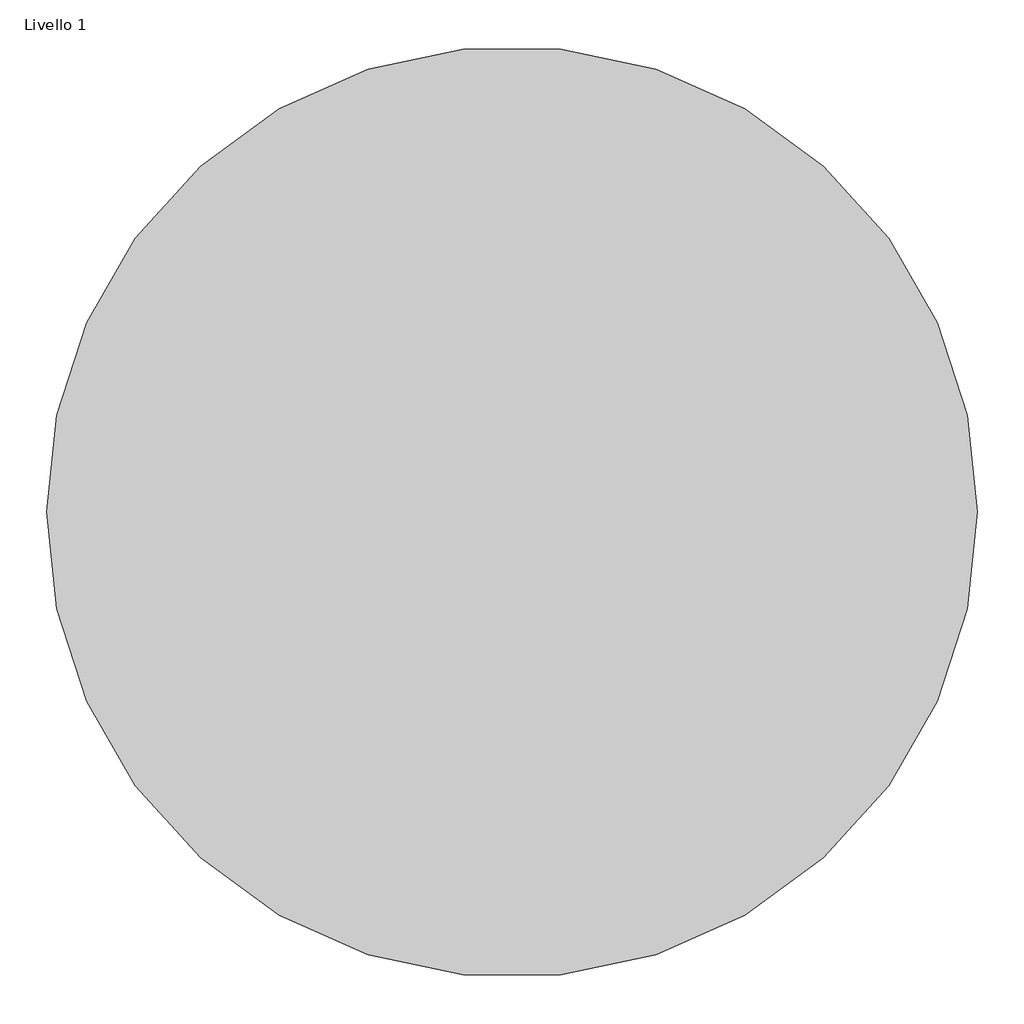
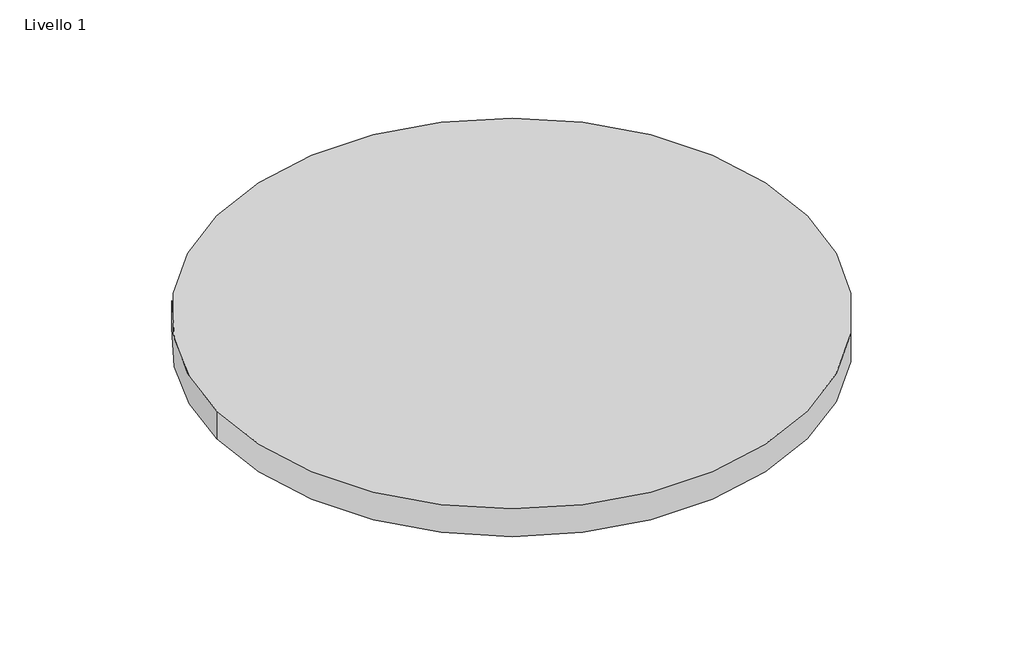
# One storey, incomplete: 1 proxy.
"""IFC4 building model written with IfcOpenShell, lengths in millimetres."""

import ifcopenshell
import ifcopenshell.guid

model = None  # the IFC model being written
_history = None  # IfcOwnerHistory: only IFC2X3 demands one
_inside = {}  # id of a spatial element -> (the spatial element, [elements in it])
_under = {}  # id of a project, library or spatial element -> (it, [spatial elements below it])
_declared = {}  # id of a project -> (the project, [libraries it declares])
_typed = {}  # id of a type object -> (the type object, [elements of that type])
_made_of = {}  # id of a material, layer set ... -> (it, [elements and type objects made of it])


def new_model(schema):
    """Start an empty IFC model of exactly this schema.

    Asked for "IFC4X3", IfcOpenShell would pick the latest addendum, in which some entities
    have other attributes; the version numbers below select the first issue.
    IFC2X3 requires an IfcOwnerHistory on every rooted entity: one is made here for all.
    """
    global model, _history
    if schema == "IFC4X3":
        model = ifcopenshell.file(schema_version=(4, 3, 0, 0))
    else:
        model = ifcopenshell.file(schema=schema)
    _inside.clear()
    _under.clear()
    _declared.clear()
    _typed.clear()
    _made_of.clear()
    _history = None
    if model.schema == "IFC2X3":
        org = make("IfcOrganization", Name="unknown")
        user = make(
            "IfcPersonAndOrganization",
            ThePerson=make("IfcPerson", FamilyName="unknown"),
            TheOrganization=org,
        )
        app = make(
            "IfcApplication",
            ApplicationDeveloper=org,
            Version="unknown",
            ApplicationFullName="unknown",
            ApplicationIdentifier="unknown",
        )
        _history = make(
            "IfcOwnerHistory",
            OwningUser=user,
            OwningApplication=app,
            ChangeAction="ADDED",
            CreationDate=0,
        )
    return model


def make(cls, **values):
    """One entity of the class cls with the attributes given. An attribute that is None is left unset."""
    return model.create_entity(
        cls, **{name: value for name, value in values.items() if value is not None}
    )


def rooted(cls, **values):
    """An entity with a GlobalId (a new one), such as an element, a storey or a relation."""
    return make(cls, GlobalId=ifcopenshell.guid.new(), OwnerHistory=_history, **values)


def si_unit(unit_type, name, prefix=None):
    """IfcSIUnit, for example si_unit("LENGTHUNIT", "METRE", prefix="MILLI")."""
    return make("IfcSIUnit", UnitType=unit_type, Prefix=prefix, Name=name)


def assignment(units):
    """IfcUnitAssignment: the units of a project."""
    return None if units is None else make("IfcUnitAssignment", Units=units)


def point(xyz):
    """IfcCartesianPoint."""
    return None if xyz is None else make("IfcCartesianPoint", Coordinates=xyz)


def direction(xyz):
    """IfcDirection."""
    return None if xyz is None else make("IfcDirection", DirectionRatios=xyz)


def frame(location, z_axis=None, x_axis=None):
    """IfcAxis2Placement3D, a coordinate frame: its origin and axes. An axis left out is left unset."""
    return make(
        "IfcAxis2Placement3D",
        Location=point(location),
        Axis=direction(z_axis),
        RefDirection=direction(x_axis),
    )


def frame_2d(location, x_axis=None):
    """IfcAxis2Placement2D, a coordinate frame in the plane: its origin and x axis."""
    return make(
        "IfcAxis2Placement2D", Location=point(location), RefDirection=direction(x_axis)
    )


def origin():
    """The frame at (0, 0, 0) with its axes left unset."""
    return frame((0.0, 0.0, 0.0))


def origin_2d():
    """The frame at (0, 0) in the plane with its x axis left unset."""
    return frame_2d((0.0, 0.0))


def place(relative_to, where):
    """IfcLocalPlacement: puts the frame where relative to a parent placement (None: the world)."""
    return make(
        "IfcLocalPlacement", PlacementRelTo=relative_to, RelativePlacement=where
    )


def context(
    kind, dimensions, precision=None, world=None, true_north=None, identifier=None
):
    """IfcGeometricRepresentationContext, for example the 3D "Model" context."""
    return make(
        "IfcGeometricRepresentationContext",
        ContextIdentifier=identifier,
        ContextType=kind,
        CoordinateSpaceDimension=dimensions,
        Precision=precision,
        WorldCoordinateSystem=world,
        TrueNorth=true_north,
    )


def project(units=None, contexts=None):
    """IfcProject with its units and contexts."""
    return rooted(
        "IfcProject",
        Name="project",
        RepresentationContexts=contexts,
        UnitsInContext=assignment(units),
    )


def spatial(cls, under=None, at=None, **own):
    """A site, building, storey or space (cls), placed at a placement, below another one or the project."""
    s = rooted(cls, ObjectPlacement=at, **own)
    if under is not None:
        _under.setdefault(under.id(), (under, []))[1].append(s)
    return s


def circle_curve(where, radius):
    """IfcCircle in the frame where."""
    return make("IfcCircle", Position=where, Radius=radius)


def trimmed(basis, trim1, trim2, sense, master):
    """IfcTrimmedCurve: the piece of a basis curve between two trims."""
    return make(
        "IfcTrimmedCurve",
        BasisCurve=basis,
        Trim1=trim1,
        Trim2=trim2,
        SenseAgreement=sense,
        MasterRepresentation=master,
    )


def segment(curve, same_sense, transition):
    """IfcCompositeCurveSegment."""
    return make(
        "IfcCompositeCurveSegment",
        Transition=transition,
        SameSense=same_sense,
        ParentCurve=curve,
    )


def composite_curve(segments, self_intersect=None):
    """IfcCompositeCurve: segments joined end to end."""
    return make("IfcCompositeCurve", Segments=segments, SelfIntersect=self_intersect)


def outline(outer, holes=None, kind="AREA"):
    """IfcArbitraryClosedProfileDef: a profile drawn as a closed curve; with holes, ...WithVoids."""
    if holes is None:
        return make("IfcArbitraryClosedProfileDef", ProfileType=kind, OuterCurve=outer)
    return make(
        "IfcArbitraryProfileDefWithVoids",
        ProfileType=kind,
        OuterCurve=outer,
        InnerCurves=holes,
    )


def extrude(swept, where, along, depth):
    """IfcExtrudedAreaSolid: the profile swept, set in the frame where, extruded along a direction by depth."""
    return make(
        "IfcExtrudedAreaSolid",
        SweptArea=swept,
        Position=where,
        ExtrudedDirection=direction(along),
        Depth=depth,
    )


def shape(context_of_items, identifier, shape_type, items):
    """IfcShapeRepresentation: the items that make up one representation, for example the "Body"."""
    return make(
        "IfcShapeRepresentation",
        ContextOfItems=context_of_items,
        RepresentationIdentifier=identifier,
        RepresentationType=shape_type,
        Items=items,
    )


def source(mapping_origin, context_of_items, identifier, shape_type, items):
    """IfcRepresentationMap: a shape defined once, which mapped items show again and again."""
    return make(
        "IfcRepresentationMap",
        MappingOrigin=mapping_origin,
        MappedRepresentation=shape(context_of_items, identifier, shape_type, items),
    )


def transform(
    local_origin,
    x_axis=None,
    y_axis=None,
    z_axis=None,
    scale=None,
    scale2=None,
    scale3=None,
    uniform=True,
):
    """IfcCartesianTransformationOperator3D, or its non-uniform kind. x_axis, y_axis, z_axis: its Axis1, 2, 3."""
    if uniform:
        return make(
            "IfcCartesianTransformationOperator3D",
            Axis1=direction(x_axis),
            Axis2=direction(y_axis),
            LocalOrigin=point(local_origin),
            Scale=scale,
            Axis3=direction(z_axis),
        )
    return make(
        "IfcCartesianTransformationOperator3DnonUniform",
        Axis1=direction(x_axis),
        Axis2=direction(y_axis),
        LocalOrigin=point(local_origin),
        Scale=scale,
        Axis3=direction(z_axis),
        Scale2=scale2,
        Scale3=scale3,
    )


def mapped(mapping_source, mapping_target):
    """IfcMappedItem: shows the shape of a source again, moved by a transform."""
    return make(
        "IfcMappedItem", MappingSource=mapping_source, MappingTarget=mapping_target
    )


def made_of(thing, what):
    """Note that an element or type object is made of a material, layer set ...; save() writes the relation."""
    if what is not None:
        _made_of.setdefault(what.id(), (what, []))[1].append(thing)
    return thing


def element(
    cls,
    number,
    at=None,
    inside=None,
    cuts=None,
    type_object=None,
    material=None,
    context=None,
    identifier="Body",
    shape_type=None,
    held_by="IfcProductDefinitionShape",
    body=None,
    shapes=None,
    **own,
):
    """One element of the class cls, such as IfcWall. Its Tag is "e" and its number.

    at: its placement. inside: the storey or other place that contains it. cuts: it is an
    opening in that element (IfcRelVoidsElement). A single representation is given by context,
    identifier, shape_type and body (its items); several are given by shapes. held_by: the class
    of the entity that holds the representations. save() writes the other relations.
    """
    e = rooted(cls, Tag="e%d" % number, ObjectPlacement=at, **own)
    if body is not None:
        shapes = [shape(context, identifier, shape_type, body)]
    if shapes is not None:
        e.Representation = make(held_by, Representations=shapes)
    if inside is not None:
        _inside.setdefault(inside.id(), (inside, []))[1].append(e)
    if cuts is not None:
        rooted(
            "IfcRelVoidsElement", RelatingBuildingElement=cuts, RelatedOpeningElement=e
        )
    if type_object is not None:
        _typed.setdefault(type_object.id(), (type_object, []))[1].append(e)
    return made_of(e, material)


def aggregate(whole, parts):
    """IfcRelAggregates: a whole, such as a stair, and the parts it consists of."""
    return rooted("IfcRelAggregates", RelatingObject=whole, RelatedObjects=parts)


def save(model, path):
    """Write the relations noted so far, then the file.

    IfcRelAggregates (storeys below a building ...), IfcRelContainedInSpatialStructure (elements
    in a storey), IfcRelDefinesByType, IfcRelAssociatesMaterial and IfcRelDeclares: one each for
    every whole, place, type object, material and project.
    """
    for whole, parts in _under.values():
        aggregate(whole, parts)
    for where, things in _inside.values():
        rooted(
            "IfcRelContainedInSpatialStructure",
            RelatedElements=things,
            RelatingStructure=where,
        )
    for kind, things in _typed.values():
        rooted("IfcRelDefinesByType", RelatedObjects=things, RelatingType=kind)
    for what, things in _made_of.values():
        rooted("IfcRelAssociatesMaterial", RelatedObjects=things, RelatingMaterial=what)
    for by, libraries in _declared.values():
        rooted("IfcRelDeclares", RelatingContext=by, RelatedDefinitions=libraries)
    model.write(path)


def generic_models_1101f476(model_context):
    return source(origin(), model_context, "Body", "SweptSolid", [
        extrude(outline(composite_curve([segment(trimmed(circle_curve(origin_2d(), 627.0), [point((0.0, 627.0))], [point((0.0, -627.0))], False, "CARTESIAN"), True, "CONTINUOUS"), segment(trimmed(circle_curve(origin_2d(), 627.0), [point((0.0, -627.0))], [point((0.0, 627.0))], False, "CARTESIAN"), True, "CONTINUOUS")], self_intersect=False)), frame((0.0, -60.0, 0.0), z_axis=(0.0, 1.0, 0.0), x_axis=(0.0, 0.0, 1.0)), (0.0, 0.0, 1.0), 62.0),
    ])


model = new_model("IFC4")

# Units and contexts
model_context = context("Model", 3, world=origin())
ifc_project = project(units=[si_unit("LENGTHUNIT", "METRE", prefix="MILLI")], contexts=[model_context])

# Site, building, storey
site = spatial("IfcSite", under=ifc_project)
building = spatial("IfcBuilding", under=site)
storey = spatial("IfcBuildingStorey", under=building, Name="Livello 1", Elevation=0.0)

# Proxy
placement = place(None, origin())
generic_models_shape = generic_models_1101f476(model_context)
element("IfcBuildingElementProxy", 1, Name="LFLO-MEXX-092", ObjectType="LFLO-MEXX-092", at=placement, inside=storey, context=model_context, shape_type="MappedRepresentation", body=[
    mapped(generic_models_shape, transform((0.0, 0.0, -1.0), x_axis=(1.0, 0.0, 0.0), y_axis=(0.0, 0.0, 1.0), z_axis=(0.0, -1.0, 0.0))),
])

save(model, "model.ifc")
